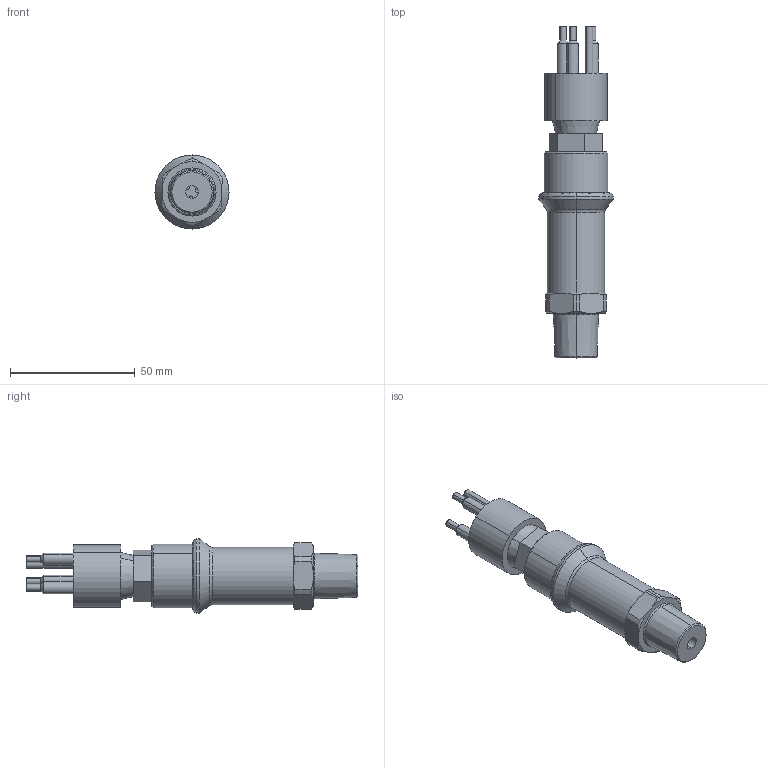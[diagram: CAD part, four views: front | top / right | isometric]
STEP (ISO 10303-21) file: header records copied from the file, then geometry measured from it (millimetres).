
FILE_DESCRIPTION (( 'STEP AP214' ), '1' );
FILE_NAME ('D-0423-DOD iss 1.STEP', '2024-06-17T10:59:23', ( '' ), ( '' ), 'SwSTEP 2.0', 'SolidWorks 2021', '' );
FILE_SCHEMA (( 'AUTOMOTIVE_DESIGN' ));
Length unit declared in the file: inch
Products named in the file (4): bh3m.stp; D-0421-M iss 1; New Cover for Assembly Drawing; D-0423-DOD iss 1
Assembly tree (3 placements, depth 2):
  D-0423-DOD iss 1
    D-0421-M iss 1
    New Cover for Assembly Drawing
    bh3m.stp
Bounding box: 29.76 x 133.2 x 29.76 mm (x, y, z)
Volume: 37004.3 mm3; surface area: 18869.7 mm2
Topology: 3 solids, 3 shells, 278 faces, 664 edges, 422 vertices
Faces by surface type: cylinder 96, plane 73, cone 54, bspline 33, torus 22
Entity records: 13398 total; most frequent: CARTESIAN_POINT 4850, ORIENTED_EDGE 1328, DIRECTION 1254, EDGE_CURVE 664, AXIS2_PLACEMENT_3D 490, VERTEX_POINT 422, EDGE_LOOP 312, ADVANCED_FACE 278
